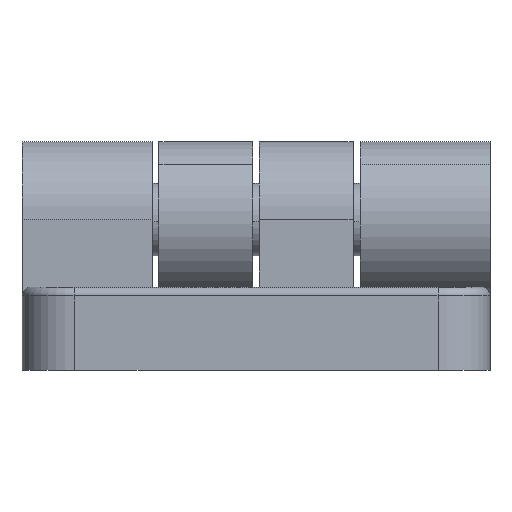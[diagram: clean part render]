
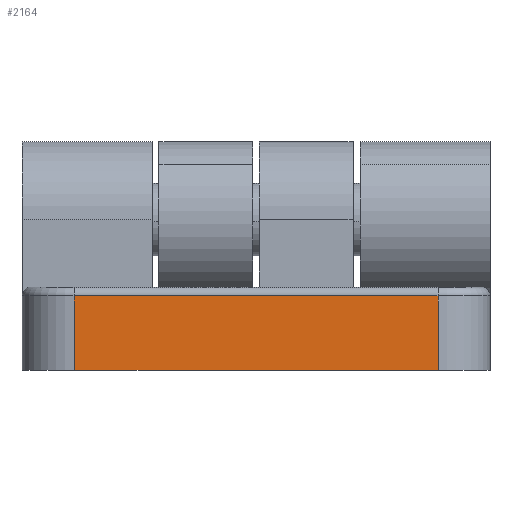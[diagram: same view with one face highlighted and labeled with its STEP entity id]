
A CAD part, front view. The second image highlights one B-rep face of the part: STEP entity #2164.
In plain terms, the highlighted planar face has unit normal (0, -1, 0).
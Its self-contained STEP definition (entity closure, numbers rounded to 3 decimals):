
#426 = LINE ( 'NONE', #5581, #2466 ) ;
#493 = EDGE_LOOP ( 'NONE', ( #4521, #2494, #5298, #1413 ) ) ;
#494 = LINE ( 'NONE', #4065, #3948 ) ;
#560 = DIRECTION ( 'NONE',  ( 0., 0., -1. ) ) ;
#643 = VERTEX_POINT ( 'NONE', #883 ) ;
#883 = CARTESIAN_POINT ( 'NONE',  ( -17.5, -20., 0. ) ) ;
#1213 = CARTESIAN_POINT ( 'NONE',  ( -17.5, -20., 7.15 ) ) ;
#1308 = EDGE_CURVE ( 'NONE', #3293, #2628, #6248, .T. ) ;
#1309 = DIRECTION ( 'NONE',  ( 0., -1., 0. ) ) ;
#1374 = CARTESIAN_POINT ( 'NONE',  ( 0., -20., -0.143 ) ) ;
#1413 = ORIENTED_EDGE ( 'NONE', *, *, #3834, .F. ) ;
#1957 = AXIS2_PLACEMENT_3D ( 'NONE', #1374, #1309, #3346 ) ;
#2164 = ADVANCED_FACE ( 'NONE', ( #4513 ), #6532, .T. ) ;
#2349 = CARTESIAN_POINT ( 'NONE',  ( 17.5, -20., 0. ) ) ;
#2466 = VECTOR ( 'NONE', #3093, 1000. ) ;
#2494 = ORIENTED_EDGE ( 'NONE', *, *, #5441, .T. ) ;
#2628 = VERTEX_POINT ( 'NONE', #4090 ) ;
#2964 = DIRECTION ( 'NONE',  ( 0., 0., -1. ) ) ;
#3093 = DIRECTION ( 'NONE',  ( 1., 0., 0. ) ) ;
#3293 = VERTEX_POINT ( 'NONE', #3514 ) ;
#3346 = DIRECTION ( 'NONE',  ( 0., 0., -1. ) ) ;
#3514 = CARTESIAN_POINT ( 'NONE',  ( -17.5, -20., 7.15 ) ) ;
#3737 = VECTOR ( 'NONE', #2964, 1000. ) ;
#3787 = EDGE_CURVE ( 'NONE', #643, #5365, #426, .T. ) ;
#3834 = EDGE_CURVE ( 'NONE', #2628, #5365, #494, .T. ) ;
#3948 = VECTOR ( 'NONE', #560, 1000. ) ;
#4065 = CARTESIAN_POINT ( 'NONE',  ( 17.5, -20., 7.15 ) ) ;
#4090 = CARTESIAN_POINT ( 'NONE',  ( 17.5, -20., 7.15 ) ) ;
#4513 = FACE_OUTER_BOUND ( 'NONE', #493, .T. ) ;
#4521 = ORIENTED_EDGE ( 'NONE', *, *, #1308, .F. ) ;
#5298 = ORIENTED_EDGE ( 'NONE', *, *, #3787, .T. ) ;
#5300 = DIRECTION ( 'NONE',  ( 1., 0., 0. ) ) ;
#5365 = VERTEX_POINT ( 'NONE', #2349 ) ;
#5441 = EDGE_CURVE ( 'NONE', #3293, #643, #6493, .T. ) ;
#5581 = CARTESIAN_POINT ( 'NONE',  ( -17.5, -20., 0. ) ) ;
#5975 = CARTESIAN_POINT ( 'NONE',  ( -17.5, -20., 7.15 ) ) ;
#6171 = VECTOR ( 'NONE', #5300, 1000. ) ;
#6248 = LINE ( 'NONE', #1213, #6171 ) ;
#6493 = LINE ( 'NONE', #5975, #3737 ) ;
#6532 = PLANE ( 'NONE',  #1957 ) ;
